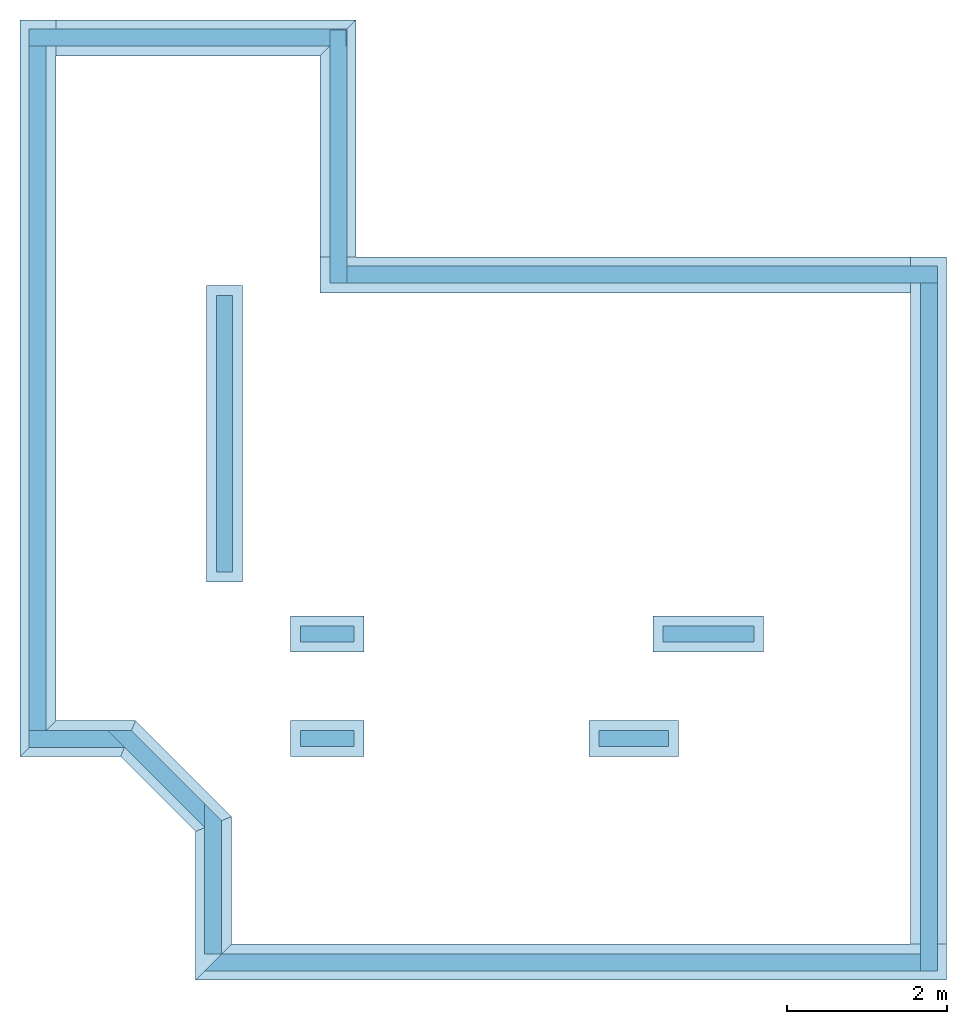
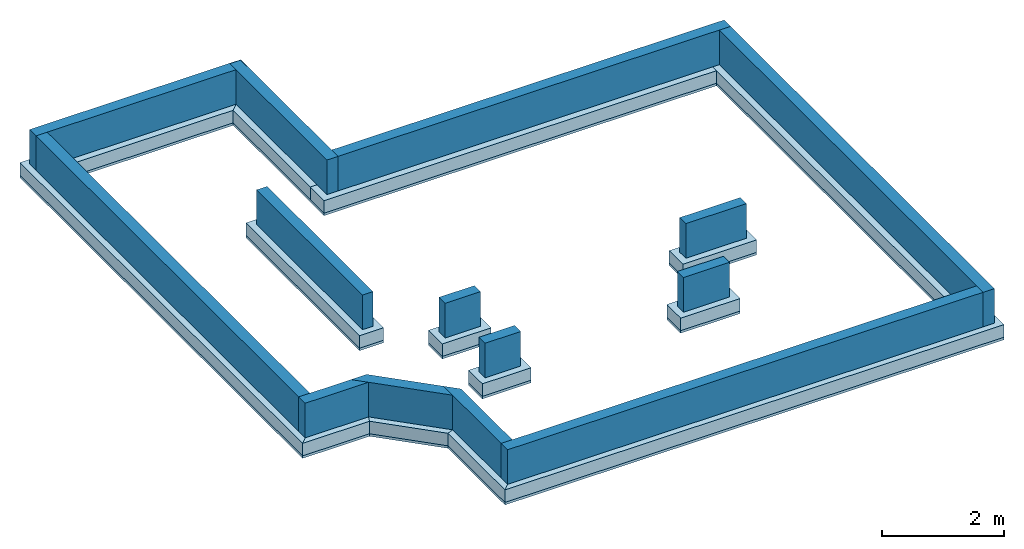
# One storey, part 1 of 2: 14 footings, 14 walls, 6 slabs, 1 opening.
"""IFC2X3 building model written with IfcOpenShell, lengths in centimetres."""

from ifc_helpers import new_model, entity, si_unit, converted_unit, derived_unit, direction, frame, frame_2d, origin, place, context, subcontext, project, spatial, polyline, rectangle, outline, extrude, clip, halfspace, bounded_halfspace, faceted_brep, material, layer, layer_set, layer_usage, type_object, element, save


model = new_model("IFC2X3")

# Units and contexts
model_context = context("Model", 3, precision=0.001, world=origin(), true_north=direction((6.12303176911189e-17, 1.0)))
body_context = subcontext(model_context, "Body", "Model", "MODEL_VIEW")
ifc_project = project(units=[si_unit("LENGTHUNIT", "METRE", prefix="CENTI"), si_unit("AREAUNIT", "SQUARE_METRE"), si_unit("VOLUMEUNIT", "CUBIC_METRE"), converted_unit("PLANEANGLEUNIT", "DEGREE", entity("IfcRatioMeasure", 0.0174532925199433), si_unit("PLANEANGLEUNIT", "RADIAN"), dimensions=[0, 0, 0, 0, 0, 0, 0]), si_unit("MASSUNIT", "GRAM", prefix="KILO"), derived_unit("MASSDENSITYUNIT", [(si_unit("MASSUNIT", "GRAM", prefix="KILO"), 1), (si_unit("LENGTHUNIT", "METRE"), -3)]), derived_unit("MOMENTOFINERTIAUNIT", [(si_unit("LENGTHUNIT", "METRE"), 4)]), si_unit("TIMEUNIT", "SECOND"), si_unit("FREQUENCYUNIT", "HERTZ"), si_unit("THERMODYNAMICTEMPERATUREUNIT", "DEGREE_CELSIUS"), derived_unit("THERMALTRANSMITTANCEUNIT", [(si_unit("MASSUNIT", "GRAM", prefix="KILO"), 1), (si_unit("THERMODYNAMICTEMPERATUREUNIT", "KELVIN"), -1), (si_unit("TIMEUNIT", "SECOND"), -3)]), derived_unit("VOLUMETRICFLOWRATEUNIT", [(si_unit("LENGTHUNIT", "METRE"), 3), (si_unit("TIMEUNIT", "SECOND"), -1)]), si_unit("ELECTRICCURRENTUNIT", "AMPERE"), si_unit("ELECTRICVOLTAGEUNIT", "VOLT"), si_unit("POWERUNIT", "WATT"), si_unit("FORCEUNIT", "NEWTON", prefix="KILO"), si_unit("ILLUMINANCEUNIT", "LUX"), si_unit("LUMINOUSFLUXUNIT", "LUMEN"), si_unit("LUMINOUSINTENSITYUNIT", "CANDELA"), derived_unit("USERDEFINED", [(si_unit("MASSUNIT", "GRAM", prefix="KILO"), -1), (si_unit("LENGTHUNIT", "METRE"), -2), (si_unit("TIMEUNIT", "SECOND"), 3), (si_unit("LUMINOUSFLUXUNIT", "LUMEN"), 1)]), derived_unit("LINEARVELOCITYUNIT", [(si_unit("LENGTHUNIT", "METRE"), 1), (si_unit("TIMEUNIT", "SECOND"), -1)]), si_unit("PRESSUREUNIT", "PASCAL"), derived_unit("USERDEFINED", [(si_unit("LENGTHUNIT", "METRE"), -2), (si_unit("MASSUNIT", "GRAM", prefix="KILO"), 1), (si_unit("TIMEUNIT", "SECOND"), -2)]), derived_unit("LINEARFORCEUNIT", [(si_unit("MASSUNIT", "GRAM", prefix="KILO"), 1), (si_unit("LENGTHUNIT", "METRE"), 1), (si_unit("TIMEUNIT", "SECOND"), -2), (si_unit("LENGTHUNIT", "METRE"), -1)]), derived_unit("PLANARFORCEUNIT", [(si_unit("MASSUNIT", "GRAM", prefix="KILO"), 1), (si_unit("LENGTHUNIT", "METRE"), 1), (si_unit("TIMEUNIT", "SECOND"), -2), (si_unit("LENGTHUNIT", "METRE"), -2)])], contexts=[model_context])

# Site, building, storey
site_placement = place(None, origin())
site = spatial("IfcSite", under=ifc_project, at=site_placement, Name="Surface", CompositionType="ELEMENT")
building_placement = place(site_placement, origin())
building = spatial("IfcBuilding", under=site, at=building_placement, CompositionType="ELEMENT")
storey_placement = place(building_placement, frame((0.0, 0.0, -98.0)))
storey = spatial("IfcBuildingStorey", under=building, at=storey_placement, Name="0_Fondation", CompositionType="ELEMENT", Elevation=-98.0)

# Footings
ifc_material_1 = material(Name="Maçonnerie - Béton")
footing_1_placement = place(storey_placement, origin())
element("IfcFooting", 1, at=footing_1_placement, inside=storey, material=ifc_material_1, Name="Semelle filante:Semelle 45 x 25", ObjectType="Semelle filante:Semelle 45 x 25", PredefinedType="STRIP_FOOTING", context=body_context, shape_type="SweptSolid", body=[
    extrude(outline(polyline([(-376.400000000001, -18.0), (-331.4, -18.0), (519.600000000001, -18.0), (564.600000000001, 27.0), (-376.400000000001, 27.0), (-376.400000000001, -18.0)])), frame((-1016.07726031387, -144.507682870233, -25.0), z_axis=(0.0, 0.0, 1.0), x_axis=(-1.0, 0.0, 0.0)), (0.0, 0.0, 1.0), 25.0),
])
footing_2_placement = place(storey_placement, origin())
element("IfcFooting", 2, at=footing_2_placement, inside=storey, material=ifc_material_1, Name="Semelle filante:Semelle 45 x 25", ObjectType="Semelle filante:Semelle 45 x 25", PredefinedType="STRIP_FOOTING", context=body_context, shape_type="SweptSolid", body=[
    extrude(rectangle(XDim=44.9999999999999, YDim=860.999999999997, at=frame_2d((4.50000000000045, -77.0999999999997), x_axis=(1.0, 0.0))), frame((-666.677260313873, 381.092317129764, -25.0)), (0.0, 0.0, 1.0), 25.0),
])
footing_3_placement = place(storey_placement, origin())
element("IfcFooting", 3, at=footing_3_placement, inside=storey, material=ifc_material_1, Name="Semelle filante:Semelle 45 x 25", ObjectType="Semelle filante:Semelle 45 x 25", PredefinedType="STRIP_FOOTING", context=body_context, shape_type="SweptSolid", body=[
    extrude(rectangle(XDim=45.0, YDim=740.0, at=frame_2d((-4.50000000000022, -65.0000000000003), x_axis=(1.0, 0.0))), frame((-1119.67726031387, 716.492317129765, -25.0), z_axis=(0.0, 0.0, 1.0), x_axis=(0.0, 1.0, 0.0)), (0.0, 0.0, 1.0), 25.0),
])
footing_4_placement = place(storey_placement, origin())
element("IfcFooting", 4, at=footing_4_placement, inside=storey, material=ifc_material_1, Name="Semelle filante:Semelle 45 x 25", ObjectType="Semelle filante:Semelle 45 x 25", PredefinedType="STRIP_FOOTING", context=body_context, shape_type="SweptSolid", body=[
    extrude(outline(polyline([(-92.974134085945, -61.1543289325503), (-29.3345237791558, -61.1543289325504), (83.6543289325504, 51.8345237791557), (38.6543289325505, 70.474134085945), (-92.974134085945, -61.1543289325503)])), frame((-1558.17726031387, -62.5224014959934, -25.0), z_axis=(0.0, 0.0, 1.0), x_axis=(0.707106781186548, 0.707106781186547, 0.0)), (0.0, 0.0, 1.0), 25.0),
])
footing_5_placement = place(storey_placement, origin())
element("IfcFooting", 5, at=footing_5_placement, inside=storey, material=ifc_material_1, Name="Semelle filante:Semelle 45 x 25", ObjectType="Semelle filante:Semelle 45 x 25", PredefinedType="STRIP_FOOTING", context=body_context, shape_type="SweptSolid", body=[
    extrude(outline(polyline([(-53.3157815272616, -69.9203494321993), (-4.60813251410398, -69.9203494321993), (46.1827114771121, 52.6995949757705), (11.7412025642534, 87.1411038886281), (-53.3157815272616, -69.9203494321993)])), frame((-1611.69197893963, 77.4775985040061, -25.0), z_axis=(0.0, 0.0, 1.0), x_axis=(-0.382683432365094, -0.923879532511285, 0.0)), (0.0, 0.0, 1.0), 25.0),
])
footing_6_placement = place(storey_placement, origin())
element("IfcFooting", 6, at=footing_6_placement, inside=storey, material=ifc_material_1, Name="Semelle filante:Semelle 45 x 25", ObjectType="Semelle filante:Semelle 45 x 25", PredefinedType="STRIP_FOOTING", context=body_context, shape_type="SweptSolid", body=[
    extrude(outline(polyline([(8.12132034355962, -39.9411254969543), (71.7609306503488, -39.9411254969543), (-17.4411254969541, 49.2609306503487), (-62.4411254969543, 30.6213203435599), (8.12132034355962, -39.9411254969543)])), frame((-1721.69197893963, 130.992317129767, -25.0), z_axis=(0.0, 0.0, 1.0), x_axis=(-0.707106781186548, -0.707106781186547, 0.0)), (0.0, 0.0, 1.0), 25.0),
])
footing_7_placement = place(storey_placement, origin())
element("IfcFooting", 7, at=footing_7_placement, inside=storey, material=ifc_material_1, Name="Semelle filante:Semelle 45 x 25", ObjectType="Semelle filante:Semelle 45 x 25", PredefinedType="STRIP_FOOTING", context=body_context, shape_type="SweptSolid", body=[
    extrude(outline(polyline([(-410.687618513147, -372.503852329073), (-347.048008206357, -372.503852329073), (241.971940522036, 216.51609639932), (273.791745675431, 248.335901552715), (241.971940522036, 280.15570670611), (-410.687618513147, -372.503852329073)])), frame((-1773.67726031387, 662.292317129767, -25.0), z_axis=(0.0, 0.0, 1.0), x_axis=(0.707106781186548, 0.707106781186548, 0.0)), (0.0, 0.0, 1.0), 25.0),
])
footing_8_placement = place(storey_placement, origin())
element("IfcFooting", 8, at=footing_8_placement, inside=storey, material=ifc_material_1, Name="Semelle filante:Semelle 45 x 25", ObjectType="Semelle filante:Semelle 45 x 25", PredefinedType="STRIP_FOOTING", context=body_context, shape_type="SweptSolid", body=[
    extrude(outline(polyline([(93.1613184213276, -124.981123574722), (156.800928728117, -124.981123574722), (-109.071220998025, 140.89102615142), (-140.891026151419, 109.071220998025), (93.1613184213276, -124.981123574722)])), frame((-1578.92726031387, 1008.99231712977, -25.0), z_axis=(0.0, 0.0, 1.0), x_axis=(0.707106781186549, 0.707106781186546, 0.0)), (0.0, 0.0, 1.0), 25.0),
])
footing_9_placement = place(storey_placement, origin())
element("IfcFooting", 9, at=footing_9_placement, inside=storey, material=ifc_material_1, Name="Semelle filante:Semelle 45 x 25", ObjectType="Semelle filante:Semelle 45 x 25", PredefinedType="STRIP_FOOTING", context=body_context, shape_type="SweptSolid", body=[
    extrude(outline(polyline([(-137.25, -22.5), (159.75, -22.5000000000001), (114.75, 22.5000000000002), (-137.25, 22.4999999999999), (-137.25, -22.5)])), frame((-1402.17726031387, 871.742317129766, -25.0), z_axis=(0.0, 0.0, 1.0), x_axis=(0.0, 1.0, 0.0)), (0.0, 0.0, 1.0), 25.0),
])
footing_10_placement = place(storey_placement, origin())
element("IfcFooting", 10, at=footing_10_placement, inside=storey, material=ifc_material_1, Name="Semelle filante:Semelle 45 x 25 refend", ObjectType="Semelle filante:Semelle 45 x 25 refend", PredefinedType="STRIP_FOOTING", context=body_context, shape_type="SweptSolid", body=[
    extrude(rectangle(XDim=91.9999999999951, YDim=45.0, at=frame_2d((0.0, -1.24344978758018e-14), x_axis=(1.0, 0.0))), frame((-1415.67726031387, 261.992317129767, -25.0), z_axis=(0.0, 0.0, 1.0), x_axis=(-1.0, 0.0, 0.0)), (0.0, 0.0, 1.0), 25.0),
])
footing_11_placement = place(storey_placement, origin())
element("IfcFooting", 11, at=footing_11_placement, inside=storey, material=ifc_material_1, Name="Semelle filante:Semelle 45 x 25 refend", ObjectType="Semelle filante:Semelle 45 x 25 refend", PredefinedType="STRIP_FOOTING", context=body_context, shape_type="SweptSolid", body=[
    extrude(rectangle(XDim=91.9999999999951, YDim=45.0, at=frame_2d((0.0, 1.4210854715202e-14), x_axis=(1.0, 0.0))), frame((-1415.67726031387, 130.992317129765, -25.0), z_axis=(0.0, 0.0, 1.0), x_axis=(-1.0, 0.0, 0.0)), (0.0, 0.0, 1.0), 25.0),
])
footing_12_placement = place(storey_placement, origin())
element("IfcFooting", 12, at=footing_12_placement, inside=storey, material=ifc_material_1, Name="Semelle filante:Semelle 45 x 25 refend", ObjectType="Semelle filante:Semelle 45 x 25 refend", PredefinedType="STRIP_FOOTING", context=body_context, shape_type="SweptSolid", body=[
    extrude(rectangle(XDim=111.999999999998, YDim=45.0, at=frame_2d((0.0, 1.4210854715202e-14), x_axis=(1.0, 0.0))), frame((-1031.67726031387, 130.992317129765, -25.0), z_axis=(0.0, 0.0, 1.0), x_axis=(-1.0, 0.0, 0.0)), (0.0, 0.0, 1.0), 25.0),
])
footing_13_placement = place(storey_placement, origin())
element("IfcFooting", 13, at=footing_13_placement, inside=storey, material=ifc_material_1, Name="Semelle filante:Semelle 45 x 25 refend", ObjectType="Semelle filante:Semelle 45 x 25 refend", PredefinedType="STRIP_FOOTING", context=body_context, shape_type="SweptSolid", body=[
    extrude(rectangle(XDim=139.000000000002, YDim=45.0, at=frame_2d((4.9737991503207e-14, 1.4210854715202e-14), x_axis=(1.0, 0.0))), frame((-938.177260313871, 261.992317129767, -25.0), z_axis=(0.0, 0.0, 1.0), x_axis=(-1.0, 0.0, 0.0)), (0.0, 0.0, 1.0), 25.0),
])
footing_14_placement = place(storey_placement, origin())
element("IfcFooting", 14, at=footing_14_placement, inside=storey, material=ifc_material_1, Name="Semelle filante:Semelle 45 x 25 refend", ObjectType="Semelle filante:Semelle 45 x 25 refend", PredefinedType="STRIP_FOOTING", context=body_context, shape_type="SweptSolid", body=[
    extrude(rectangle(XDim=370.999999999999, YDim=45.0, at=frame_2d((-8.5265128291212e-14, -2.16715534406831e-13), x_axis=(1.0, 0.0))), frame((-1544.17726031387, 512.992317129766, -25.0), z_axis=(0.0, 0.0, 1.0), x_axis=(0.0, -1.0, 0.0)), (0.0, 0.0, 1.0), 25.0),
])

# Slab, opening
ifc_material_2 = material(Name="Maçonnerie - Béton(2)")
ifc_layer_1 = layer(ifc_material_2, 5.0)
ifc_layer_set_1 = layer_set([ifc_layer_1], Name="Radier:Béton de propreté 5cm")
ifc_layer_usage_1 = layer_usage(ifc_layer_set_1, "AXIS3", "POSITIVE", 0.0)
slab_type_1 = type_object("IfcSlabType", Name="Radier:Béton de propreté 5cm", PredefinedType="BASESLAB")
slab_1_placement = place(storey_placement, frame((-1800.67726031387, -171.507682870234, -30.0)))
slab_1 = element("IfcSlab", 15, at=slab_1_placement, inside=storey, type_object=slab_type_1, material=ifc_layer_usage_1, Name="Radier:Béton de propreté 5cm", ObjectType="Radier:Béton de propreté 5cm", PredefinedType="BASESLAB", context=body_context, shape_type="SweptSolid", body=[
    extrude(outline(polyline([(159.499999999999, 601.499999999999), (159.5, 304.499999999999), (-580.500000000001, 304.499999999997), (-580.499999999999, -601.500000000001), (360.500000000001, -601.499999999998), (360.500000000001, -415.349242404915), (454.349242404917, -321.499999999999), (580.500000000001, -321.499999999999), (580.499999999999, 601.500000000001), (159.499999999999, 601.499999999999)])), frame((580.500000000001, 601.500000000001, 5.0), z_axis=(0.0, 0.0, -1.0), x_axis=(-1.0, 0.0, 0.0)), (0.0, 0.0, 1.0), 5.0),
])
opening_placement = place(slab_1_placement, frame((416.532263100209, 553.64337421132, 5.0)))
element("IfcOpeningElement", 16, at=opening_placement, cuts=slab_1, Name="Radier:Béton de propreté 5cm:2", ObjectType="Opening", context=body_context, shape_type="SweptSolid", body=[
    extrude(outline(polyline([(-604.35662578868, -40.5322631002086), (-604.356625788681, -371.532263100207), (228.643374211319, -371.532263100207), (228.643374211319, -271.741895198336), (348.853006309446, -151.532263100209), (508.643374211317, -151.532263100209), (508.643374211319, 699.467736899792), (-307.356625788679, 699.467736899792), (-307.35662578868, -40.5322631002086), (-604.35662578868, -40.5322631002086)])), frame((0.0, 0.0, 0.0), z_axis=(0.0, 0.0, 1.0), x_axis=(0.0, -1.0, 0.0)), (0.0, 0.0, -1.0), 5.0),
])

# Slabs
slab_type_2 = type_object("IfcSlabType", Name="Radier:Béton de propreté 5cm", PredefinedType="BASESLAB")
slab_2_placement = place(storey_placement, frame((-1800.67726031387, -171.507682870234, -30.0)))
element("IfcSlab", 17, at=slab_2_placement, inside=storey, type_object=slab_type_2, material=ifc_layer_usage_1, Name="Radier:Béton de propreté 5cm:2", ObjectType="Radier:Béton de propreté 5cm", PredefinedType="BASESLAB", context=body_context, shape_type="SweptSolid", body=[
    extrude(rectangle(XDim=370.999999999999, YDim=44.9999999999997, at=frame_2d((324.0, 83.0), x_axis=(0.0, -1.0))), frame((580.500000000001, 601.500000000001, 5.0), z_axis=(0.0, 0.0, -1.0), x_axis=(-1.0, 0.0, 0.0)), (0.0, 0.0, 1.0), 5.0),
])
slab_type_3 = type_object("IfcSlabType", Name="Radier:Béton de propreté 5cm", PredefinedType="BASESLAB")
slab_3_placement = place(storey_placement, frame((-1800.67726031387, -171.507682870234, -30.0)))
element("IfcSlab", 18, at=slab_3_placement, inside=storey, type_object=slab_type_3, material=ifc_layer_usage_1, Name="Radier:Béton de propreté 5cm:3", ObjectType="Radier:Béton de propreté 5cm", PredefinedType="BASESLAB", context=body_context, shape_type="SweptSolid", body=[
    extrude(rectangle(XDim=45.0000000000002, YDim=91.9999999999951, at=frame_2d((195.499999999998, -168.0), x_axis=(0.0, -1.0))), frame((580.500000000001, 601.500000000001, 5.0), z_axis=(0.0, 0.0, -1.0), x_axis=(-1.0, 0.0, 0.0)), (0.0, 0.0, 1.0), 5.0),
])
slab_type_4 = type_object("IfcSlabType", Name="Radier:Béton de propreté 5cm", PredefinedType="BASESLAB")
slab_4_placement = place(storey_placement, frame((-1800.67726031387, -171.507682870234, -30.0)))
element("IfcSlab", 19, at=slab_4_placement, inside=storey, type_object=slab_type_4, material=ifc_layer_usage_1, Name="Radier:Béton de propreté 5cm:4", ObjectType="Radier:Béton de propreté 5cm", PredefinedType="BASESLAB", context=body_context, shape_type="SweptSolid", body=[
    extrude(rectangle(XDim=45.0000000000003, YDim=91.9999999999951, at=frame_2d((195.499999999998, -299.0), x_axis=(0.0, -1.0))), frame((580.500000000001, 601.500000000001, 5.0), z_axis=(0.0, 0.0, -1.0), x_axis=(-1.0, 0.0, 0.0)), (0.0, 0.0, 1.0), 5.0),
])
slab_type_5 = type_object("IfcSlabType", Name="Radier:Béton de propreté 5cm", PredefinedType="BASESLAB")
slab_5_placement = place(storey_placement, frame((-1800.67726031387, -171.507682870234, -30.0)))
element("IfcSlab", 20, at=slab_5_placement, inside=storey, type_object=slab_type_5, material=ifc_layer_usage_1, Name="Radier:Béton de propreté 5cm:5", ObjectType="Radier:Béton de propreté 5cm", PredefinedType="BASESLAB", context=body_context, shape_type="SweptSolid", body=[
    extrude(rectangle(XDim=45.0000000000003, YDim=111.999999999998, at=frame_2d((-188.500000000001, -299.0), x_axis=(0.0, -1.0))), frame((580.500000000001, 601.500000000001, 5.0), z_axis=(0.0, 0.0, -1.0), x_axis=(-1.0, 0.0, 0.0)), (0.0, 0.0, 1.0), 5.0),
])
slab_type_6 = type_object("IfcSlabType", Name="Radier:Béton de propreté 5cm", PredefinedType="BASESLAB", material=ifc_layer_set_1)
slab_6_placement = place(storey_placement, frame((-1800.67726031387, -171.507682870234, -30.0)))
element("IfcSlab", 21, at=slab_6_placement, inside=storey, type_object=slab_type_6, material=ifc_layer_usage_1, Name="Radier:Béton de propreté 5cm:6", ObjectType="Radier:Béton de propreté 5cm", PredefinedType="BASESLAB", context=body_context, shape_type="SweptSolid", body=[
    extrude(rectangle(XDim=45.0000000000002, YDim=139.000000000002, at=frame_2d((-282.0, -168.0), x_axis=(0.0, -1.0))), frame((580.500000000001, 601.500000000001, 5.0), z_axis=(0.0, 0.0, -1.0), x_axis=(-1.0, 0.0, 0.0)), (0.0, 0.0, 1.0), 5.0),
])

# Walls
ifc_material_3 = material(Name="Protection humidité")
ifc_layer_2 = layer(ifc_material_3, 1.0)
ifc_material_4 = material(Name="Blocs de maçonnerie en béton")
ifc_layer_3 = layer(ifc_material_4, 20.0)
ifc_layer_set_2 = layer_set([ifc_layer_2, ifc_layer_3], Name="Mur de base:Mur de soubassement")
ifc_layer_usage_2 = layer_usage(ifc_layer_set_2, "AXIS2", "NEGATIVE", 10.5)
wall_type_1 = type_object("IfcWallType", Name="Mur de base:Mur de soubassement", PredefinedType="STANDARD", material=ifc_layer_set_2)
wall_1_placement = place(storey_placement, frame((-1789.17726031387, 1009.49231712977, 0.0)))
element("IfcWallStandardCase", 22, at=wall_1_placement, inside=storey, type_object=wall_type_1, material=ifc_layer_usage_2, Name="Mur de base:Mur de soubassement", ObjectType="Mur de base:Mur de soubassement", context=body_context, shape_type="Clipping", body=[
    clip(extrude(rectangle(XDim=398.0, YDim=21.0, at=frame_2d((199.0, 6.48370246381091e-14), x_axis=(-1.0, 0.0))), origin(), (0.0, 0.0, 1.0), 69.0), halfspace(origin(), True)),
])
ifc_layer_usage_3 = layer_usage(ifc_layer_set_2, "AXIS2", "NEGATIVE", 10.5)
wall_2_placement = place(storey_placement, frame((-1401.67726031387, 1018.99231712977, 0.0), z_axis=(0.0, 0.0, 1.0), x_axis=(0.0, -1.0, 0.0)))
element("IfcWallStandardCase", 23, at=wall_2_placement, inside=storey, type_object=wall_type_1, material=ifc_layer_usage_3, Name="Mur de base:Mur de soubassement", ObjectType="Mur de base:Mur de soubassement", context=body_context, shape_type="Clipping", body=[
    clip(clip(extrude(rectangle(XDim=317.0, YDim=21.0, at=frame_2d((158.5, 1.4210854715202e-14), x_axis=(-1.0, 0.0))), origin(), (0.0, 0.0, 1.0), 69.0), bounded_halfspace(frame((0.0, 10.5, 69.0), z_axis=(0.0, 0.0, -1.0), x_axis=(1.0, 0.0, 0.0)), False, frame((0.0, 10.5, 69.0)), polyline([(0.0, 0.0), (0.0, -1.0), (20.0, -1.0), (20.0, 0.0), (0.0, 0.0)]))), halfspace(origin(), True)),
])
ifc_layer_usage_4 = layer_usage(ifc_layer_set_2, "AXIS2", "NEGATIVE", 10.5)
wall_3_placement = place(storey_placement, frame((-1391.17726031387, 712.492317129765, 0.0)))
element("IfcWallStandardCase", 24, at=wall_3_placement, inside=storey, type_object=wall_type_1, material=ifc_layer_usage_4, Name="Mur de base:Mur de soubassement", ObjectType="Mur de base:Mur de soubassement", context=body_context, shape_type="Clipping", body=[
    clip(extrude(rectangle(XDim=740.0, YDim=21.0, at=frame_2d((370.0, 0.0), x_axis=(-1.0, 0.0))), origin(), (0.0, 0.0, 1.0), 69.0), halfspace(origin(), True)),
])
ifc_layer_usage_5 = layer_usage(ifc_layer_set_2, "AXIS2", "NEGATIVE", 10.5)
wall_4_placement = place(storey_placement, frame((-661.677260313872, 721.992317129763, 0.0), z_axis=(0.0, 0.0, 1.0), x_axis=(0.0, -1.0, 0.0)))
element("IfcWallStandardCase", 25, at=wall_4_placement, inside=storey, type_object=wall_type_1, material=ifc_layer_usage_5, Name="Mur de base:Mur de soubassement", ObjectType="Mur de base:Mur de soubassement", context=body_context, shape_type="Clipping", body=[
    clip(clip(extrude(rectangle(XDim=881.999999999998, YDim=21.0, at=frame_2d((440.999999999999, 3.46389583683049e-14), x_axis=(-1.0, 0.0))), origin(), (0.0, 0.0, 1.0), 69.0), bounded_halfspace(frame((0.0, 10.5, 69.0), z_axis=(0.0, 0.0, -1.0), x_axis=(1.0, 0.0, 0.0)), False, frame((0.0, 10.5, 69.0)), polyline([(0.0, 0.0), (0.0, -1.0), (20.0, -1.0), (20.0, 0.0), (0.0, 0.0)]))), halfspace(origin(), True)),
])
ifc_layer_usage_6 = layer_usage(ifc_layer_set_2, "AXIS2", "NEGATIVE", 10.5)
wall_5_placement = place(storey_placement, frame((-652.177260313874, -149.507682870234, 0.0), z_axis=(0.0, 0.0, 1.0), x_axis=(-1.0, 0.0, 0.0)))
element("IfcWallStandardCase", 26, at=wall_5_placement, inside=storey, type_object=wall_type_1, material=ifc_layer_usage_6, Name="Mur de base:Mur de soubassement", ObjectType="Mur de base:Mur de soubassement", context=body_context, shape_type="Clipping", body=[
    clip(clip(extrude(rectangle(XDim=917.0, YDim=21.0, at=frame_2d((458.5, -8.88178419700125e-16), x_axis=(-1.0, 0.0))), origin(), (0.0, 0.0, 1.0), 69.0), bounded_halfspace(frame((0.0, 10.5, 69.0), z_axis=(0.0, 0.0, -1.0), x_axis=(1.0, 0.0, 0.0)), False, frame((0.0, 10.5, 69.0)), polyline([(0.0, 0.0), (0.0, -1.0), (20.0, -1.0), (20.0, 0.0), (0.0, 0.0)]))), halfspace(origin(), True)),
])
wall_6_placement = place(storey_placement, frame((-1558.67726031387, -159.007682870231, 0.0), z_axis=(0.0, 0.0, 1.0), x_axis=(0.0, 1.0, 0.0)))
element("IfcWall", 27, at=wall_6_placement, inside=storey, type_object=wall_type_1, Name="Mur de base:Mur de soubassement", ObjectType="Mur de base:Mur de soubassement", context=body_context, shape_type="Brep", body=[
    faceted_brep([(20.0, -10.5, 0.0), (187.112698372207, -10.5, 0.0), (187.112698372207, -10.5, 69.0), (20.0, -10.5, 69.0), (208.112698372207, 10.5000000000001, 0.0), (178.414213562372, 10.5, 0.0), (20.0, 10.5, 0.0), (20.0, 10.5, 69.0), (208.112698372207, 10.5000000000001, 69.0), (20.0, 9.50000000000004, 0.0), (207.112698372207, 9.50000000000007, 0.0)], [[[0, 1, 2, 3]], [[4, 5, 6, 7, 8]], [[3, 2, 8, 7]], [[1, 0, 9, 10]], [[0, 3, 7, 6, 9]], [[5, 4, 10, 9, 6]], [[2, 1, 10, 4, 8]]]),
])
wall_7_placement = place(storey_placement, frame((-1561.75263911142, 26.8311518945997, 0.0), z_axis=(0.0, 0.0, 1.0), x_axis=(-0.707106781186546, 0.707106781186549, 0.0)))
element("IfcWall", 28, at=wall_7_placement, inside=storey, type_object=wall_type_1, Name="Mur de base:Mur de soubassement", ObjectType="Mur de base:Mur de soubassement", context=body_context, shape_type="Brep", body=[
    faceted_brep([(21.0, -10.4999999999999, 0.0), (150.948268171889, -10.4999999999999, 0.0), (150.948268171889, -10.4999999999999, 69.0), (21.0, -10.4999999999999, 69.0), (171.948268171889, 10.5000000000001, 0.0), (142.249783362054, 10.5000000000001, 0.0), (0.0, 10.5000000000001, 0.0), (0.0, 10.5000000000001, 69.0), (171.948268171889, 10.5000000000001, 69.0), (1.0, 9.50000000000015, 0.0), (170.948268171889, 9.5000000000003, 0.0)], [[[0, 1, 2, 3]], [[4, 5, 6, 7, 8]], [[3, 2, 8, 7]], [[1, 0, 9, 10]], [[0, 3, 7, 6, 9]], [[5, 4, 10, 9, 6]], [[2, 1, 10, 4, 8]]]),
])
wall_8_placement = place(storey_placement, frame((-1669.7630467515, 130.492317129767, 0.0), z_axis=(0.0, 0.0, 1.0), x_axis=(-1.0, 0.0, 0.0)))
element("IfcWall", 29, at=wall_8_placement, inside=storey, type_object=wall_type_1, Name="Mur de base:Mur de soubassement", ObjectType="Mur de base:Mur de soubassement", context=body_context, shape_type="Brep", body=[
    faceted_brep([(21.0, -10.5, 0.0), (98.414213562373, -10.5, 0.0), (119.414213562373, -10.5, 0.0), (119.414213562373, -10.5, 69.0), (21.0, -10.5, 69.0), (119.414213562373, 10.5, 0.0), (0.0, 10.5, 0.0), (0.0, 10.5, 69.0), (119.414213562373, 10.5, 69.0), (1.0, 9.50000000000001, 0.0), (119.414213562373, 9.49999999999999, 0.0)], [[[0, 1, 2, 3, 4]], [[5, 6, 7, 8]], [[8, 7, 4, 3]], [[1, 0, 9, 10, 2]], [[0, 4, 7, 6, 9]], [[6, 5, 10, 9]], [[8, 3, 2, 10, 5]]]),
])
ifc_layer_usage_7 = layer_usage(ifc_layer_set_2, "AXIS2", "NEGATIVE", 10.5)
wall_9_placement = place(storey_placement, frame((-1778.67726031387, 120.992317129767, 0.0), z_axis=(0.0, 0.0, 1.0), x_axis=(0.0, 1.0, 0.0)))
element("IfcWallStandardCase", 30, at=wall_9_placement, inside=storey, type_object=wall_type_1, material=ifc_layer_usage_7, Name="Mur de base:Mur de soubassement", ObjectType="Mur de base:Mur de soubassement", context=body_context, shape_type="Clipping", body=[
    clip(clip(clip(extrude(rectangle(XDim=897.999999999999, YDim=21.0, at=frame_2d((449.0, 0.0), x_axis=(-1.0, 0.0))), origin(), (0.0, 0.0, 1.0), 69.0), bounded_halfspace(frame((898.0, 9.50000000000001, 69.0), z_axis=(0.0, 0.0, -1.0), x_axis=(-1.0, 0.0, 0.0)), False, frame((898.0, 9.50000000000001, 69.0)), polyline([(0.0, 0.0), (0.0, 1.0), (-20.0, 1.0), (-20.0, 0.0), (0.0, 0.0)]))), bounded_halfspace(frame((0.0, 10.5, 69.0), z_axis=(0.0, 0.0, -1.0), x_axis=(1.0, 0.0, 0.0)), False, frame((0.0, 10.5, 69.0)), polyline([(0.0, 0.0), (0.0, -1.0), (20.0, -1.0), (20.0, 0.0), (0.0, 0.0)]))), halfspace(origin(), True)),
])
ifc_layer_4 = layer(ifc_material_4, 20.0)
ifc_layer_set_3 = layer_set([ifc_layer_4], Name="Mur de base:Mur de soubassement refend")
ifc_layer_usage_8 = layer_usage(ifc_layer_set_3, "AXIS2", "NEGATIVE", 10.0)
wall_type_2 = type_object("IfcWallType", Name="Mur de base:Mur de soubassement refend", PredefinedType="STANDARD", material=ifc_layer_set_3)
wall_10_placement = place(storey_placement, frame((-881.17726031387, 261.992317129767, 0.0), z_axis=(0.0, 0.0, 1.0), x_axis=(-1.0, 0.0, 0.0)))
element("IfcWallStandardCase", 31, at=wall_10_placement, inside=storey, type_object=wall_type_2, material=ifc_layer_usage_8, Name="Mur de base:Mur de soubassement refend", ObjectType="Mur de base:Mur de soubassement refend", context=body_context, shape_type="SweptSolid", body=[
    extrude(rectangle(XDim=114.000000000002, YDim=20.0, at=frame_2d((57.000000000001, 0.0), x_axis=(-1.0, 0.0))), origin(), (0.0, 0.0, 1.0), 69.0),
])
ifc_layer_usage_9 = layer_usage(ifc_layer_set_3, "AXIS2", "NEGATIVE", 10.0)
wall_11_placement = place(storey_placement, frame((-988.177260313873, 130.992317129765, 0.0), z_axis=(0.0, 0.0, 1.0), x_axis=(-1.0, 0.0, 0.0)))
element("IfcWallStandardCase", 32, at=wall_11_placement, inside=storey, type_object=wall_type_2, material=ifc_layer_usage_9, Name="Mur de base:Mur de soubassement refend", ObjectType="Mur de base:Mur de soubassement refend", context=body_context, shape_type="SweptSolid", body=[
    extrude(rectangle(XDim=86.9999999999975, YDim=20.0, at=frame_2d((43.4999999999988, 0.0), x_axis=(-1.0, 0.0))), origin(), (0.0, 0.0, 1.0), 69.0),
])
ifc_layer_usage_10 = layer_usage(ifc_layer_set_3, "AXIS2", "NEGATIVE", 10.0)
wall_12_placement = place(storey_placement, frame((-1382.17726031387, 130.992317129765, 0.0), z_axis=(0.0, 0.0, 1.0), x_axis=(-1.0, 0.0, 0.0)))
element("IfcWallStandardCase", 33, at=wall_12_placement, inside=storey, type_object=wall_type_2, material=ifc_layer_usage_10, Name="Mur de base:Mur de soubassement refend", ObjectType="Mur de base:Mur de soubassement refend", context=body_context, shape_type="SweptSolid", body=[
    extrude(rectangle(XDim=66.9999999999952, YDim=20.0, at=frame_2d((33.4999999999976, 0.0), x_axis=(-1.0, 0.0))), origin(), (0.0, 0.0, 1.0), 69.0),
])
ifc_layer_usage_11 = layer_usage(ifc_layer_set_3, "AXIS2", "NEGATIVE", 10.0)
wall_13_placement = place(storey_placement, frame((-1382.17726031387, 261.992317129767, 0.0), z_axis=(0.0, 0.0, 1.0), x_axis=(-1.0, 0.0, 0.0)))
element("IfcWallStandardCase", 34, at=wall_13_placement, inside=storey, type_object=wall_type_2, material=ifc_layer_usage_11, Name="Mur de base:Mur de soubassement refend", ObjectType="Mur de base:Mur de soubassement refend", context=body_context, shape_type="SweptSolid", body=[
    extrude(rectangle(XDim=66.9999999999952, YDim=20.0, at=frame_2d((33.4999999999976, 0.0), x_axis=(-1.0, 0.0))), origin(), (0.0, 0.0, 1.0), 69.0),
])
ifc_layer_usage_12 = layer_usage(ifc_layer_set_3, "AXIS2", "NEGATIVE", 10.0)
wall_14_placement = place(storey_placement, frame((-1544.17726031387, 685.992317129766, 0.0), z_axis=(0.0, 0.0, 1.0), x_axis=(0.0, -1.0, 0.0)))
element("IfcWallStandardCase", 35, at=wall_14_placement, inside=storey, type_object=wall_type_2, material=ifc_layer_usage_12, Name="Mur de base:Mur de soubassement refend", ObjectType="Mur de base:Mur de soubassement refend", context=body_context, shape_type="SweptSolid", body=[
    extrude(rectangle(XDim=345.999999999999, YDim=20.0000000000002, at=frame_2d((172.999999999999, 1.86517468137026e-14), x_axis=(-1.0, 0.0))), origin(), (0.0, 0.0, 1.0), 69.0),
])

save(model, "model.ifc")
